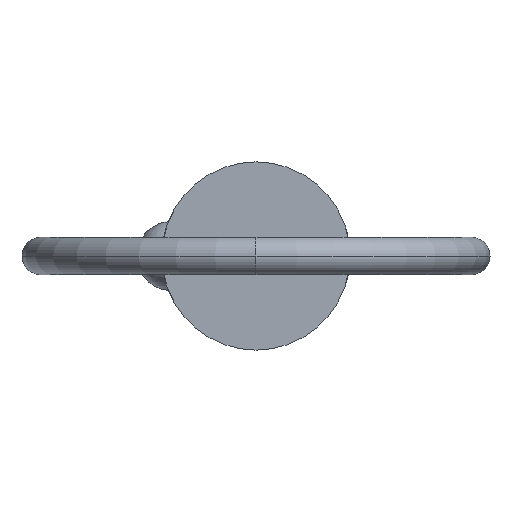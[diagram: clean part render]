
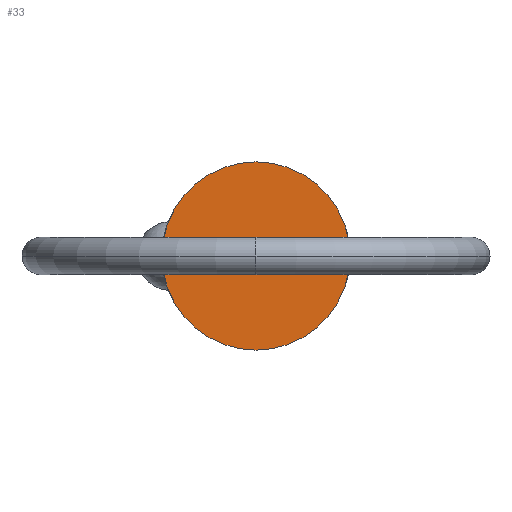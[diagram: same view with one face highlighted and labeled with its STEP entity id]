
A CAD part, left-side view. The second image highlights one B-rep face of the part: STEP entity #33.
In plain terms, the highlighted planar face has unit normal (-1, 0, 0).
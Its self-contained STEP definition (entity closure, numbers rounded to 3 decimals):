
#33 = ADVANCED_FACE ( 'NONE', ( #39 ), #383, .T. ) ;
#39 = FACE_OUTER_BOUND ( 'NONE', #420, .T. ) ;
#47 = ORIENTED_EDGE ( 'NONE', *, *, #153, .F. ) ;
#49 = DIRECTION ( 'NONE',  ( -1., 0., 0. ) ) ;
#80 = CIRCLE ( 'NONE', #438, 5.555 ) ;
#140 = DIRECTION ( 'NONE',  ( 1., 0., 0. ) ) ;
#153 = EDGE_CURVE ( 'NONE', #250, #557, #80, .T. ) ;
#205 = CARTESIAN_POINT ( 'NONE',  ( 0., 0., 0. ) ) ;
#212 = DIRECTION ( 'NONE',  ( 0., 0., -1. ) ) ;
#223 = AXIS2_PLACEMENT_3D ( 'NONE', #205, #140, #212 ) ;
#250 = VERTEX_POINT ( 'NONE', #528 ) ;
#323 = CARTESIAN_POINT ( 'NONE',  ( 0., 0., -5.555 ) ) ;
#383 = PLANE ( 'NONE',  #833 ) ;
#420 = EDGE_LOOP ( 'NONE', ( #631, #47 ) ) ;
#438 = AXIS2_PLACEMENT_3D ( 'NONE', #746, #743, #607 ) ;
#469 = CIRCLE ( 'NONE', #223, 5.555 ) ;
#528 = CARTESIAN_POINT ( 'NONE',  ( 0., 0., 5.555 ) ) ;
#557 = VERTEX_POINT ( 'NONE', #323 ) ;
#607 = DIRECTION ( 'NONE',  ( 0., 0., -1. ) ) ;
#631 = ORIENTED_EDGE ( 'NONE', *, *, #650, .F. ) ;
#650 = EDGE_CURVE ( 'NONE', #557, #250, #469, .T. ) ;
#654 = CARTESIAN_POINT ( 'NONE',  ( 0., 0., 0. ) ) ;
#743 = DIRECTION ( 'NONE',  ( 1., 0., 0. ) ) ;
#746 = CARTESIAN_POINT ( 'NONE',  ( 0., 0., 0. ) ) ;
#787 = DIRECTION ( 'NONE',  ( 0., 0., 1. ) ) ;
#833 = AXIS2_PLACEMENT_3D ( 'NONE', #654, #49, #787 ) ;
